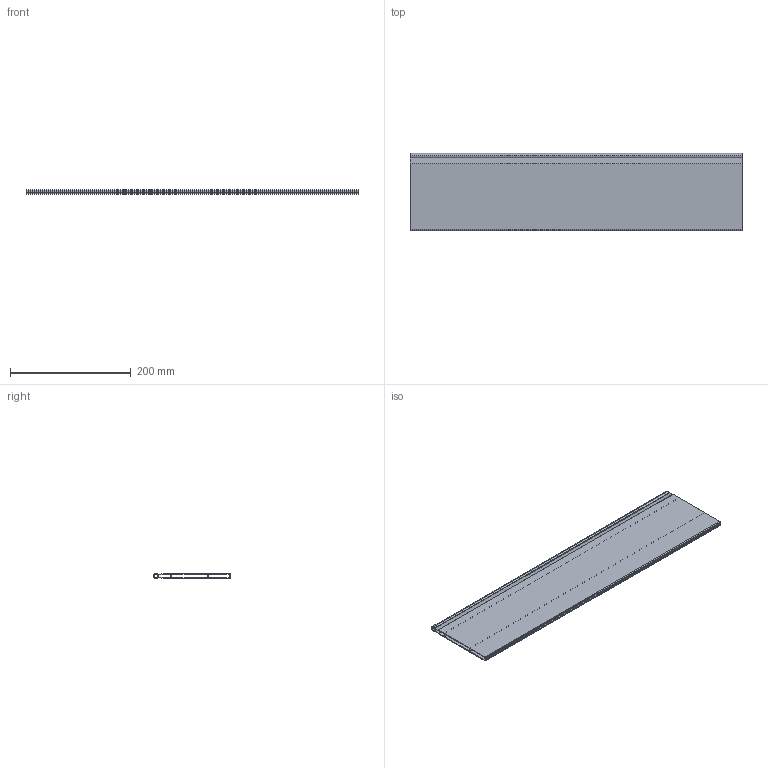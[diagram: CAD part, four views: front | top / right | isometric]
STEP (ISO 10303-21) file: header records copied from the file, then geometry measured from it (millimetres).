
FILE_DESCRIPTION (( 'STEP AP214' ), '1' );
FILE_NAME ('_Magic Optima Unterteilungsprofil DWD XP Agantis_Nova Pro KAB 700.step', '2010-08-17T12:26:46', ( 'grass' ), ( '' ), 'SwSTEP 2.0', 'SolidWorks 2010', '' );
FILE_SCHEMA (( 'AUTOMOTIVE_DESIGN' ));
Length unit declared in the file: millimetre
Products named in the file (1): _Magic Optima Unterteilungsprofil DWD XP Agantis_Nova Pro  KAB 700
Bounding box: 550 x 127.7 x 8.1 mm (x, y, z)
Volume: 192787.9 mm3; surface area: 298910.3 mm2
Topology: 1 solids, 1 shells, 39 faces, 111 edges, 74 vertices
Faces by surface type: plane 22, cylinder 17
Entity records: 1325 total; most frequent: CARTESIAN_POINT 225, DIRECTION 225, ORIENTED_EDGE 222, EDGE_CURVE 111, LINE 77, VECTOR 77, AXIS2_PLACEMENT_3D 74, VERTEX_POINT 74
